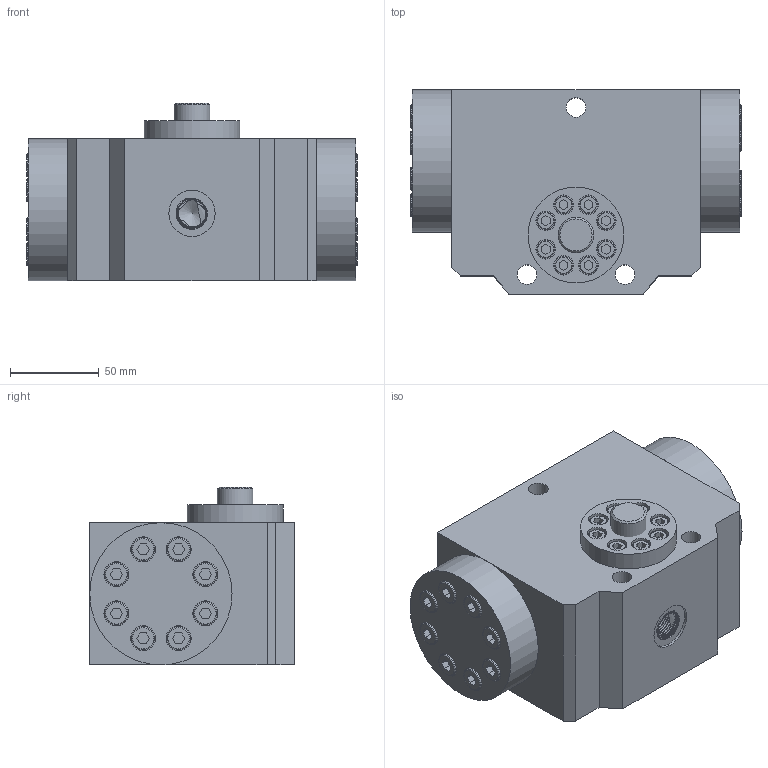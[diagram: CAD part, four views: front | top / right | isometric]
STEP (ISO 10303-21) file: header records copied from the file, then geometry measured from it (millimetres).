
FILE_DESCRIPTION(/* description */ (''),/* implementation_level */ '2;1');
FILE_NAME(/* name */ '1-1.stp',/* time_stamp */ '2023-05-03T15:25:52+08:00',/* author */ (''),/* organization */ (''),/* preprocessor_version */ 'ST-DEVELOPER v16.7',/* originating_system */ 'SIEMENS PLM Software NX 12.0',/* authorisation */ '');
FILE_SCHEMA (('AUTOMOTIVE_DESIGN { 1 0 10303 214 3 1 1 1 }'));
Length unit declared in the file: millimetre
Products named in the file (1): 1-1
Bounding box: 186 x 115 x 100 mm (x, y, z)
Volume: 1438755.7 mm3; surface area: 180488.4 mm2
Topology: 28 solids, 28 shells, 670 faces, 1630 edges, 1084 vertices
Faces by surface type: plane 401, cylinder 184, cone 52, torus 24, bspline 9
Full cylindrical faces by diameter (mm): 5 x8, 6 x8, 6.8 x16, 7 x8, 8 x16, 9 x16, 10 x8, 11 x11, 13 x16, 14 x16, 20 x1, 23 x2, 26 x1, 53.906 x1, 80 x2
Entity records: 34892 total; most frequent: CARTESIAN_POINT 20269, DIRECTION 3005, ORIENTED_EDGE 2514, EDGE_CURVE 1257, AXIS2_PLACEMENT_3D 1124, EDGE_LOOP 1038, VERTEX_POINT 968, LINE 757
